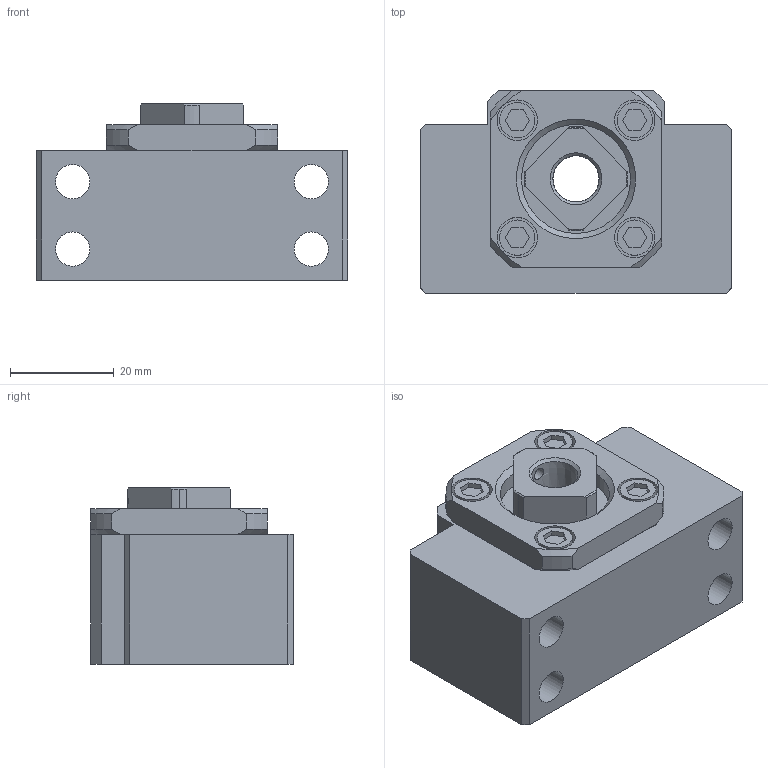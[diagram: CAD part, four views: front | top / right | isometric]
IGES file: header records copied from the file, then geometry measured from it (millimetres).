
Start section: Data from Parasolid IGES Translator 26.0.171, Copyright(c) 2006 Siemens PLM Software. All Rights Reserved.
Global section: file name: BK10Yes.igs; native system: By Siemens PLM Incorporated; preprocessor: XPlus GENERIC/IGES 26.0.171; author: Noname; organization: Noname; date: 20250611.070559; units: millimetre
Bounding box: 60 x 39 x 34 mm (x, y, z)
Surface area: 19423.7 mm2 (no closed solid volume)
Topology: 0 solids, 0 shells, 157 faces, 740 edges, 690 vertices
Faces by surface type: extrusion 94, revolution 63
